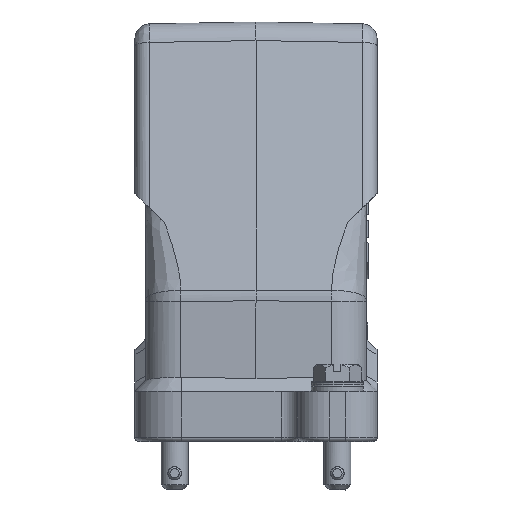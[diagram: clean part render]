
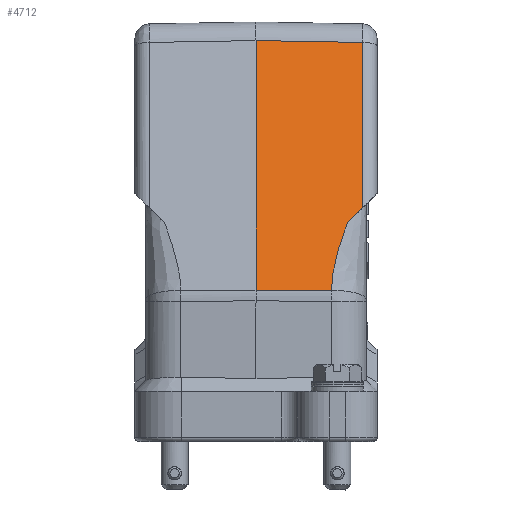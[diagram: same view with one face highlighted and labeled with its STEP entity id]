
A CAD part, left-side view. The second image highlights one B-rep face of the part: STEP entity #4712.
In plain terms, the highlighted planar face has unit normal (-0.966, -0.018, 0.259).
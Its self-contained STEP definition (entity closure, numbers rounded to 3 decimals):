
#3306=(
BOUNDED_CURVE()
B_SPLINE_CURVE(3,(#17491,#17492,#17493,#17494,#17495,#17496,#17497,#17498,
#17499,#17500),.UNSPECIFIED.,.F.,.F.)
B_SPLINE_CURVE_WITH_KNOTS((4,3,3,4),(0.,0.192,0.32,
1.),.UNSPECIFIED.)
CURVE()
GEOMETRIC_REPRESENTATION_ITEM()
RATIONAL_B_SPLINE_CURVE((1.,1.,1.,1.,1.,1.,1.,1.,1.,1.))
REPRESENTATION_ITEM('')
);
#3781=LINE('',#17457,#4347);
#3789=LINE('',#17485,#4355);
#3790=LINE('',#17488,#4356);
#3791=LINE('',#17489,#4357);
#3792=LINE('',#17502,#4358);
#4347=VECTOR('',#12950,1.);
#4355=VECTOR('',#12962,1.);
#4356=VECTOR('',#12963,1.);
#4357=VECTOR('',#12964,1.);
#4358=VECTOR('',#12965,1.);
#4712=ADVANCED_FACE('',(#5411),#5148,.T.);
#5148=PLANE('',#11723);
#5411=FACE_OUTER_BOUND('',#5878,.T.);
#5878=EDGE_LOOP('',(#7004,#7005,#7006,#7007,#7008,#7009));
#7004=ORIENTED_EDGE('',*,*,#9885,.T.);
#7005=ORIENTED_EDGE('',*,*,#9886,.T.);
#7006=ORIENTED_EDGE('',*,*,#9876,.T.);
#7007=ORIENTED_EDGE('',*,*,#9887,.T.);
#7008=ORIENTED_EDGE('',*,*,#9888,.T.);
#7009=ORIENTED_EDGE('',*,*,#9889,.T.);
#9051=VERTEX_POINT('',#17458);
#9052=VERTEX_POINT('',#17459);
#9059=VERTEX_POINT('',#17486);
#9060=VERTEX_POINT('',#17487);
#9061=VERTEX_POINT('',#17490);
#9062=VERTEX_POINT('',#17501);
#9876=EDGE_CURVE('',#9051,#9052,#3781,.T.);
#9885=EDGE_CURVE('',#9059,#9060,#3789,.T.);
#9886=EDGE_CURVE('',#9060,#9051,#3790,.T.);
#9887=EDGE_CURVE('',#9052,#9061,#3791,.T.);
#9888=EDGE_CURVE('',#9061,#9062,#3306,.T.);
#9889=EDGE_CURVE('',#9062,#9059,#3792,.T.);
#11723=AXIS2_PLACEMENT_3D('',#17503,#12966,#12967);
#12950=DIRECTION('',(-0.259,0.,-0.966));
#12962=DIRECTION('',(0.259,0.,0.966));
#12963=DIRECTION('',(-0.013,1.,0.017));
#12964=DIRECTION('',(0.017,-1.,-0.002));
#12965=DIRECTION('',(0.198,-0.693,0.693));
#12966=DIRECTION('',(-0.966,-0.017,0.259));
#12967=DIRECTION('',(0.259,0.,0.966));
#17457=CARTESIAN_POINT('',(-27.449,0.,82.45));
#17458=CARTESIAN_POINT('',(-28.641,0.,78.004));
#17459=CARTESIAN_POINT('',(-44.659,0.,18.221));
#17485=CARTESIAN_POINT('',(-27.119,-25.561,81.959));
#17486=CARTESIAN_POINT('',(-38.895,-25.561,38.011));
#17487=CARTESIAN_POINT('',(-28.298,-25.561,77.557));
#17488=CARTESIAN_POINT('',(-28.642,0.062,78.005));
#17489=CARTESIAN_POINT('',(-44.657,-0.153,18.221));
#17490=CARTESIAN_POINT('',(-44.344,-18.048,18.18));
#17491=CARTESIAN_POINT('',(-44.344,-18.048,18.18));
#17492=CARTESIAN_POINT('',(-43.235,-18.048,22.322));
#17493=CARTESIAN_POINT('',(-42.104,-19.277,26.458));
#17494=CARTESIAN_POINT('',(-40.974,-20.505,30.594));
#17495=CARTESIAN_POINT('',(-40.22,-21.324,33.351));
#17496=CARTESIAN_POINT('',(-39.453,-22.961,36.105));
#17497=CARTESIAN_POINT('',(-38.713,-22.961,38.866));
#17498=CARTESIAN_POINT('',(-34.775,-22.961,53.561));
#17499=CARTESIAN_POINT('',(-30.838,-22.961,68.256));
#17500=CARTESIAN_POINT('',(-26.9,-22.961,82.952));
#17501=CARTESIAN_POINT('',(-39.943,-21.895,34.345));
#17502=CARTESIAN_POINT('',(-35.851,-36.202,48.652));
#17503=CARTESIAN_POINT('',(-27.449,0.,82.45));
